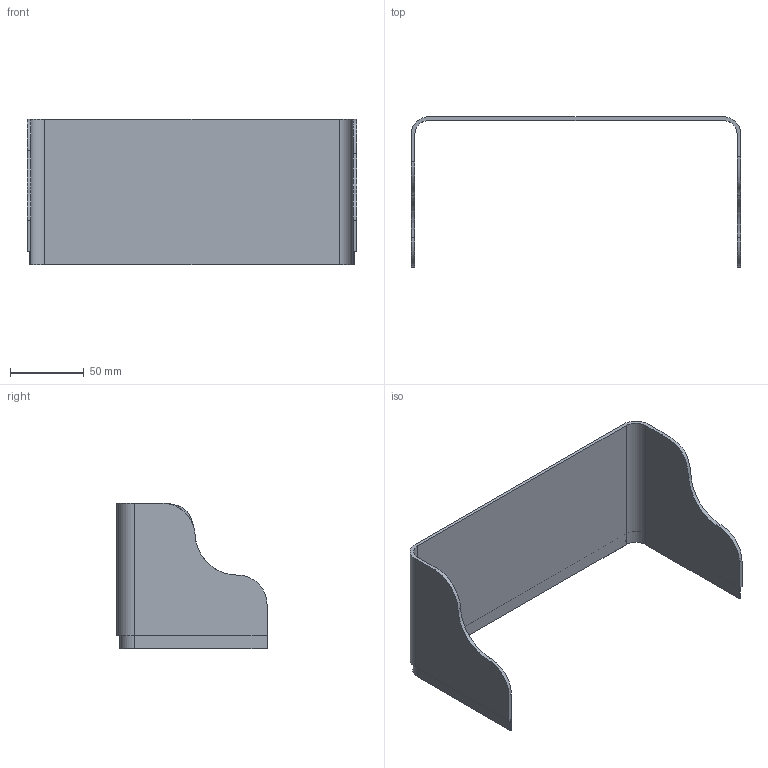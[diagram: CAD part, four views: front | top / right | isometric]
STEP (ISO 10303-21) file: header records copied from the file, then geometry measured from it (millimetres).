
FILE_DESCRIPTION(/* description */ (''),/* implementation_level */ '2;1');
FILE_NAME(/* name */ 'Volkswagen T6 Caravelle Sunscreen v2 XL version.step',/* time_stamp */ '2025-11-08T10:44:21+01:00',/* author */ (''),/* organization */ (''),/* preprocessor_version */ 'ST-DEVELOPER v20.1',/* originating_system */ 'Autodesk Translation Framework v14.17.0.0',/* authorisation */ '');
FILE_SCHEMA (('AUTOMOTIVE_DESIGN { 1 0 10303 214 3 1 1 }'));
Length unit declared in the file: millimetre
Products named in the file (1): Volkswagen T6 Caravelle Sunscreen
Bounding box: 223.8 x 101.9 x 99 mm (x, y, z)
Volume: 83244 mm3; surface area: 74588.8 mm2
Topology: 1 solids, 1 shells, 26 faces, 72 edges, 48 vertices
Faces by surface type: plane 14, cylinder 10, bspline 2
Entity records: 1011 total; most frequent: CARTESIAN_POINT 311, ORIENTED_EDGE 144, DIRECTION 134, EDGE_CURVE 72, VERTEX_POINT 48, AXIS2_PLACEMENT_3D 45, LINE 44, VECTOR 44
